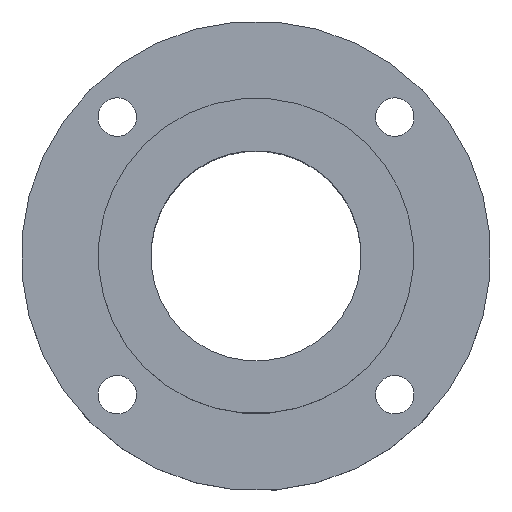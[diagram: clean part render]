
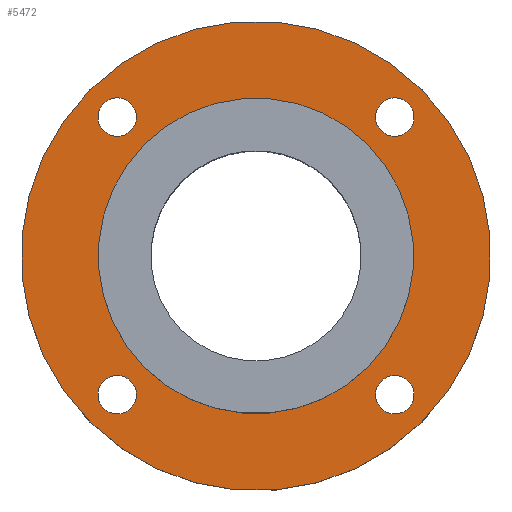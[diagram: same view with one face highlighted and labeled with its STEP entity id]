
A CAD part, top view. The second image highlights one B-rep face of the part: STEP entity #5472.
In plain terms, the highlighted planar face has unit normal (0, 0, 1).
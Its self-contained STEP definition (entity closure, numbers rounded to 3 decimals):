
#112=CIRCLE('',#5821,45.);
#116=CIRCLE('',#5829,67.);
#117=CIRCLE('',#5831,5.5);
#118=CIRCLE('',#5832,5.5);
#119=CIRCLE('',#5833,5.5);
#120=CIRCLE('',#5834,5.5);
#510=ORIENTED_EDGE('',*,*,#2074,.F.);
#511=ORIENTED_EDGE('',*,*,#2075,.F.);
#512=ORIENTED_EDGE('',*,*,#2076,.F.);
#513=ORIENTED_EDGE('',*,*,#2077,.F.);
#514=ORIENTED_EDGE('',*,*,#2069,.T.);
#515=ORIENTED_EDGE('',*,*,#2073,.T.);
#2069=EDGE_CURVE('',#2854,#2854,#112,.F.);
#2073=EDGE_CURVE('',#2858,#2858,#116,.T.);
#2074=EDGE_CURVE('',#2859,#2859,#117,.T.);
#2075=EDGE_CURVE('',#2860,#2860,#118,.T.);
#2076=EDGE_CURVE('',#2861,#2861,#119,.T.);
#2077=EDGE_CURVE('',#2862,#2862,#120,.T.);
#2854=VERTEX_POINT('',#8686);
#2858=VERTEX_POINT('',#8698);
#2859=VERTEX_POINT('',#8701);
#2860=VERTEX_POINT('',#8703);
#2861=VERTEX_POINT('',#8705);
#2862=VERTEX_POINT('',#8707);
#4467=EDGE_LOOP('',(#510));
#4468=EDGE_LOOP('',(#511));
#4469=EDGE_LOOP('',(#512));
#4470=EDGE_LOOP('',(#513));
#4471=EDGE_LOOP('',(#514));
#4472=EDGE_LOOP('',(#515));
#4872=FACE_BOUND('',#4467,.T.);
#4873=FACE_BOUND('',#4468,.T.);
#4874=FACE_BOUND('',#4469,.T.);
#4875=FACE_BOUND('',#4470,.T.);
#4876=FACE_BOUND('',#4471,.T.);
#4877=FACE_BOUND('',#4472,.T.);
#5220=PLANE('',#5830);
#5472=ADVANCED_FACE('',(#4872,#4873,#4874,#4875,#4876,#4877),#5220,.T.);
#5821=AXIS2_PLACEMENT_3D('',#8685,#6318,#6319);
#5829=AXIS2_PLACEMENT_3D('',#8697,#6334,#6335);
#5830=AXIS2_PLACEMENT_3D('',#8699,#6336,#6337);
#5831=AXIS2_PLACEMENT_3D('',#8700,#6338,#6339);
#5832=AXIS2_PLACEMENT_3D('',#8702,#6340,#6341);
#5833=AXIS2_PLACEMENT_3D('',#8704,#6342,#6343);
#5834=AXIS2_PLACEMENT_3D('',#8706,#6344,#6345);
#6318=DIRECTION('',(0.,0.,1.));
#6319=DIRECTION('',(0.707,-0.707,0.));
#6334=DIRECTION('',(0.,0.,1.));
#6335=DIRECTION('',(0.707,-0.707,0.));
#6336=DIRECTION('',(0.,0.,1.));
#6337=DIRECTION('',(0.707,-0.707,0.));
#6338=DIRECTION('',(0.,0.,1.));
#6339=DIRECTION('',(0.707,-0.707,0.));
#6340=DIRECTION('',(0.,0.,1.));
#6341=DIRECTION('',(0.707,-0.707,0.));
#6342=DIRECTION('',(0.,0.,1.));
#6343=DIRECTION('',(0.707,-0.707,0.));
#6344=DIRECTION('',(0.,0.,1.));
#6345=DIRECTION('',(0.707,-0.707,0.));
#8685=CARTESIAN_POINT('',(0.,0.,0.));
#8686=CARTESIAN_POINT('',(31.82,-31.82,0.));
#8697=CARTESIAN_POINT('',(0.,0.,0.));
#8698=CARTESIAN_POINT('',(47.376,-47.376,0.));
#8699=CARTESIAN_POINT('',(0.,0.,0.));
#8700=CARTESIAN_POINT('',(39.598,39.598,0.));
#8701=CARTESIAN_POINT('',(43.487,35.709,0.));
#8702=CARTESIAN_POINT('',(-39.598,39.598,0.));
#8703=CARTESIAN_POINT('',(-35.709,35.709,0.));
#8704=CARTESIAN_POINT('',(-39.598,-39.598,0.));
#8705=CARTESIAN_POINT('',(-35.709,-43.487,0.));
#8706=CARTESIAN_POINT('',(39.598,-39.598,0.));
#8707=CARTESIAN_POINT('',(43.487,-43.487,0.));
